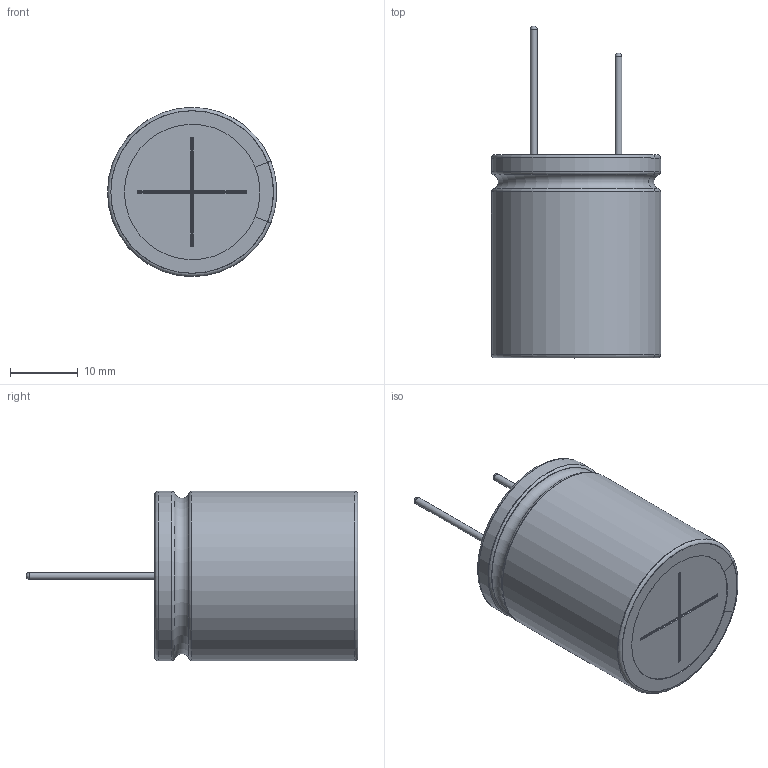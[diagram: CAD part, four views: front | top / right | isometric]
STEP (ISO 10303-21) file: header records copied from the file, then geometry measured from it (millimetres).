
FILE_DESCRIPTION(/* description */ (''),/* implementation_level */ '2;1');
FILE_NAME(/* name */ '25x30_Lead.stp',/* time_stamp */ '2017-09-06T16:17:01+09:00',/* author */ (''),/* organization */ (''),/* preprocessor_version */ 'ST-DEVELOPER v16',/* originating_system */ 'SIEMENS PLM Software NX 11.0',/* authorisation */ '');
FILE_SCHEMA (('AUTOMOTIVE_DESIGN { 1 0 10303 214 3 1 1 1 }'));
Length unit declared in the file: millimetre
Products named in the file (1): 25x30_Lead_0
Bounding box: 24.96 x 49 x 25 mm (x, y, z)
Volume: 14578.2 mm3; surface area: 8860.7 mm2
Topology: 3 solids, 3 shells, 100 faces, 252 edges, 160 vertices
Faces by surface type: cylinder 36, plane 28, torus 26, sphere 6, bspline 4
Full cylindrical faces by diameter (mm): 1 x2, 24.8 x2
Entity records: 3386 total; most frequent: CARTESIAN_POINT 605, DIRECTION 566, ORIENTED_EDGE 468, AXIS2_PLACEMENT_3D 235, EDGE_CURVE 234, VERTEX_POINT 154, CIRCLE 130, EDGE_LOOP 114
